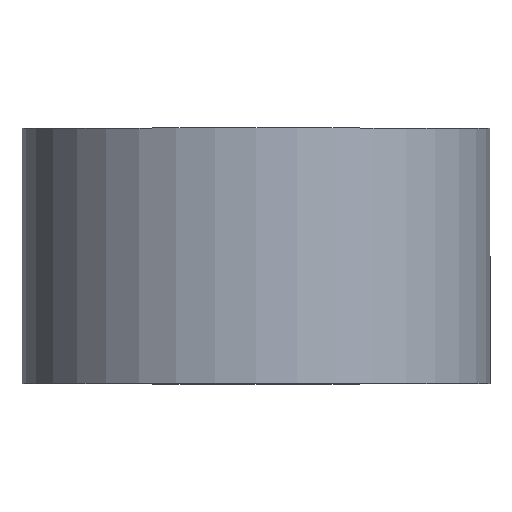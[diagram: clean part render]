
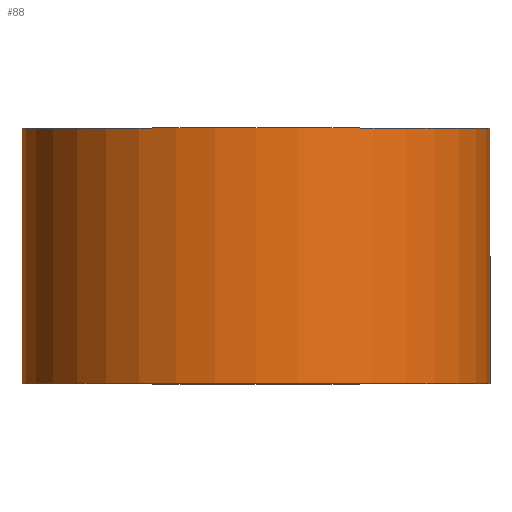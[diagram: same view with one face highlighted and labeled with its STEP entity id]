
A CAD part, top view. The second image highlights one B-rep face of the part: STEP entity #88.
In plain terms, the highlighted cylindrical face has radius 27.5 mm (diameter 55 mm), a partial arc.
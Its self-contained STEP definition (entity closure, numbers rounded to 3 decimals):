
#6 = CARTESIAN_POINT ( 'NONE',  ( -27.5, 30., 0. ) ) ;
#27 = ORIENTED_EDGE ( 'NONE', *, *, #71, .F. ) ;
#36 = ORIENTED_EDGE ( 'NONE', *, *, #100, .T. ) ;
#40 = CARTESIAN_POINT ( 'NONE',  ( 0., 30., 0. ) ) ;
#42 = LINE ( 'NONE', #92, #287 ) ;
#43 = ORIENTED_EDGE ( 'NONE', *, *, #227, .T. ) ;
#49 = ORIENTED_EDGE ( 'NONE', *, *, #89, .F. ) ;
#55 = EDGE_LOOP ( 'NONE', ( #43, #36, #49, #27 ) ) ;
#58 = VERTEX_POINT ( 'NONE', #202 ) ;
#62 = CARTESIAN_POINT ( 'NONE',  ( 0., 0., 0. ) ) ;
#65 = VERTEX_POINT ( 'NONE', #198 ) ;
#66 = AXIS2_PLACEMENT_3D ( 'NONE', #67, #156, #293 ) ;
#67 = CARTESIAN_POINT ( 'NONE',  ( 0., 0., 0. ) ) ;
#71 = EDGE_CURVE ( 'NONE', #176, #205, #42, .T. ) ;
#76 = CARTESIAN_POINT ( 'NONE',  ( -27.5, 0., 0. ) ) ;
#88 = ADVANCED_FACE ( 'NONE', ( #211 ), #150, .T. ) ;
#89 = EDGE_CURVE ( 'NONE', #205, #58, #279, .T. ) ;
#92 = CARTESIAN_POINT ( 'NONE',  ( -27.5, 0., 0. ) ) ;
#100 = EDGE_CURVE ( 'NONE', #65, #58, #142, .T. ) ;
#134 = CARTESIAN_POINT ( 'NONE',  ( 27.5, 0., 0. ) ) ;
#141 = AXIS2_PLACEMENT_3D ( 'NONE', #40, #159, #162 ) ;
#142 = LINE ( 'NONE', #134, #281 ) ;
#150 = CYLINDRICAL_SURFACE ( 'NONE', #66, 27.5 ) ;
#151 = DIRECTION ( 'NONE',  ( 0., 1., 0. ) ) ;
#156 = DIRECTION ( 'NONE',  ( 0., 1., 0. ) ) ;
#159 = DIRECTION ( 'NONE',  ( 0., 1., 0. ) ) ;
#162 = DIRECTION ( 'NONE',  ( -1., 0., 0. ) ) ;
#167 = CIRCLE ( 'NONE', #289, 27.5 ) ;
#172 = DIRECTION ( 'NONE',  ( -1., 0., 0. ) ) ;
#176 = VERTEX_POINT ( 'NONE', #76 ) ;
#198 = CARTESIAN_POINT ( 'NONE',  ( 27.5, 0., 0. ) ) ;
#202 = CARTESIAN_POINT ( 'NONE',  ( 27.5, 30., 0. ) ) ;
#205 = VERTEX_POINT ( 'NONE', #6 ) ;
#211 = FACE_OUTER_BOUND ( 'NONE', #55, .T. ) ;
#227 = EDGE_CURVE ( 'NONE', #176, #65, #167, .T. ) ;
#250 = DIRECTION ( 'NONE',  ( 0., 1., 0. ) ) ;
#279 = CIRCLE ( 'NONE', #141, 27.5 ) ;
#281 = VECTOR ( 'NONE', #295, 1000. ) ;
#287 = VECTOR ( 'NONE', #250, 1000. ) ;
#289 = AXIS2_PLACEMENT_3D ( 'NONE', #62, #151, #172 ) ;
#293 = DIRECTION ( 'NONE',  ( -1., 0., 0. ) ) ;
#295 = DIRECTION ( 'NONE',  ( 0., 1., 0. ) ) ;
